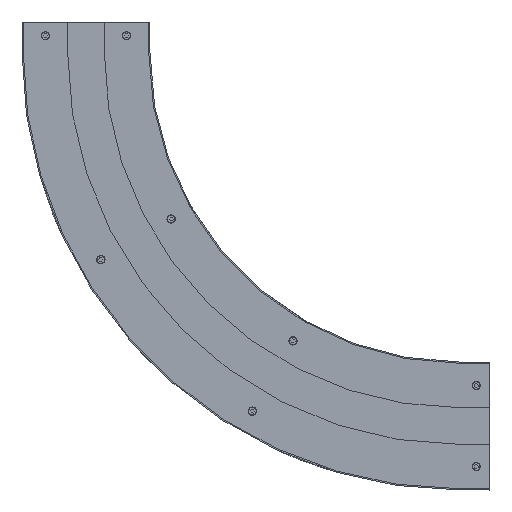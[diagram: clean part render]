
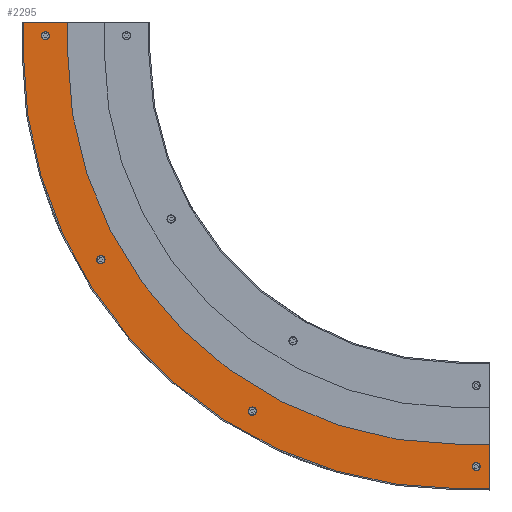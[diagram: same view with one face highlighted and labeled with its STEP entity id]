
A CAD part, front view. The second image highlights one B-rep face of the part: STEP entity #2295.
In plain terms, the highlighted planar face has unit normal (0, -1, 0) as drawn and (0, 1, 0) by its records, which use the part's own axes.
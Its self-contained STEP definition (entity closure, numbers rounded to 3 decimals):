
#11 = CARTESIAN_POINT ( 'NONE',  ( 637.5, 30., -719.5 ) ) ;
#50 = LINE ( 'NONE', #2740, #3525 ) ;
#308 = DIRECTION ( 'NONE',  ( -1., 0., 0. ) ) ;
#424 = VERTEX_POINT ( 'NONE', #7881 ) ;
#501 = EDGE_CURVE ( 'NONE', #10715, #6260, #9836, .T. ) ;
#686 = DIRECTION ( 'NONE',  ( 0., 1., 0. ) ) ;
#868 = DIRECTION ( 'NONE',  ( 0., 0., 1. ) ) ;
#952 = PLANE ( 'NONE',  #6909 ) ;
#964 = DIRECTION ( 'NONE',  ( 0., -1., 0. ) ) ;
#970 = ORIENTED_EDGE ( 'NONE', *, *, #6418, .T. ) ;
#980 = DIRECTION ( 'NONE',  ( 0., 1., 0. ) ) ;
#1016 = ORIENTED_EDGE ( 'NONE', *, *, #501, .T. ) ;
#1107 = DIRECTION ( 'NONE',  ( 0., 0., 1. ) ) ;
#1164 = VECTOR ( 'NONE', #1652, 1000. ) ;
#1198 = VERTEX_POINT ( 'NONE', #8071 ) ;
#1263 = CARTESIAN_POINT ( 'NONE',  ( -102.5, 30., 0. ) ) ;
#1369 = VERTEX_POINT ( 'NONE', #8216 ) ;
#1572 = ORIENTED_EDGE ( 'NONE', *, *, #10874, .F. ) ;
#1651 = DIRECTION ( 'NONE',  ( 0., 0., 1. ) ) ;
#1652 = DIRECTION ( 'NONE',  ( 0., 0., 1. ) ) ;
#1825 = ORIENTED_EDGE ( 'NONE', *, *, #6485, .F. ) ;
#1915 = ORIENTED_EDGE ( 'NONE', *, *, #7986, .F. ) ;
#2116 = EDGE_CURVE ( 'NONE', #5182, #9745, #7841, .T. ) ;
#2196 = EDGE_LOOP ( 'NONE', ( #3957, #3278 ) ) ;
#2295 = ADVANCED_FACE ( 'NONE', ( #8949, #9928, #5878, #9223, #3231 ), #952, .T. ) ;
#2374 = VERTEX_POINT ( 'NONE', #11 ) ;
#2448 = VERTEX_POINT ( 'NONE', #4414 ) ;
#2473 = CARTESIAN_POINT ( 'NONE',  ( 271.875, 30., -635.65 ) ) ;
#2612 = CARTESIAN_POINT ( 'NONE',  ( -102.5, 30., -50. ) ) ;
#2654 = AXIS2_PLACEMENT_3D ( 'NONE', #4436, #7163, #8959 ) ;
#2740 = CARTESIAN_POINT ( 'NONE',  ( 610., 30., -690. ) ) ;
#2807 = DIRECTION ( 'NONE',  ( 0., 0., -1. ) ) ;
#3185 = ORIENTED_EDGE ( 'NONE', *, *, #11101, .F. ) ;
#3231 = FACE_OUTER_BOUND ( 'NONE', #7381, .T. ) ;
#3278 = ORIENTED_EDGE ( 'NONE', *, *, #7920, .F. ) ;
#3525 = VECTOR ( 'NONE', #8986, 1000. ) ;
#3746 = VERTEX_POINT ( 'NONE', #11247 ) ;
#3957 = ORIENTED_EDGE ( 'NONE', *, *, #8137, .F. ) ;
#4338 = ORIENTED_EDGE ( 'NONE', *, *, #10939, .F. ) ;
#4403 = AXIS2_PLACEMENT_3D ( 'NONE', #5909, #9544, #8644 ) ;
#4414 = CARTESIAN_POINT ( 'NONE',  ( -30., 30., 0. ) ) ;
#4436 = CARTESIAN_POINT ( 'NONE',  ( 271.875, 30., -635.65 ) ) ;
#4447 = AXIS2_PLACEMENT_3D ( 'NONE', #5613, #10930, #8281 ) ;
#4535 = CARTESIAN_POINT ( 'NONE',  ( -30., 30., -50. ) ) ;
#4561 = ORIENTED_EDGE ( 'NONE', *, *, #7949, .F. ) ;
#4597 = VECTOR ( 'NONE', #9018, 1000. ) ;
#5111 = DIRECTION ( 'NONE',  ( 0., 0., 1. ) ) ;
#5182 = VERTEX_POINT ( 'NONE', #6674 ) ;
#5239 = ORIENTED_EDGE ( 'NONE', *, *, #2116, .T. ) ;
#5264 = DIRECTION ( 'NONE',  ( 0., 0., 1. ) ) ;
#5290 = CARTESIAN_POINT ( 'NONE',  ( -66.25, 30., -15.75 ) ) ;
#5363 = CARTESIAN_POINT ( 'NONE',  ( 610., 30., -762.5 ) ) ;
#5400 = AXIS2_PLACEMENT_3D ( 'NONE', #6194, #7199, #868 ) ;
#5403 = CARTESIAN_POINT ( 'NONE',  ( -102.5, 30., -50. ) ) ;
#5467 = AXIS2_PLACEMENT_3D ( 'NONE', #2473, #686, #5111 ) ;
#5558 = CIRCLE ( 'NONE', #9023, 6.75 ) ;
#5613 = CARTESIAN_POINT ( 'NONE',  ( -66.25, 30., -22.5 ) ) ;
#5875 = EDGE_CURVE ( 'NONE', #8624, #3746, #10662, .T. ) ;
#5878 = FACE_BOUND ( 'NONE', #10875, .T. ) ;
#5889 = CIRCLE ( 'NONE', #5467, 6.75 ) ;
#5909 = CARTESIAN_POINT ( 'NONE',  ( 610., 30., -50. ) ) ;
#5935 = AXIS2_PLACEMENT_3D ( 'NONE', #9433, #8825, #1651 ) ;
#6122 = CIRCLE ( 'NONE', #2654, 6.75 ) ;
#6124 = VERTEX_POINT ( 'NONE', #8362 ) ;
#6194 = CARTESIAN_POINT ( 'NONE',  ( -66.25, 30., -22.5 ) ) ;
#6217 = CARTESIAN_POINT ( 'NONE',  ( 660., 30., -762.5 ) ) ;
#6247 = DIRECTION ( 'NONE',  ( 0., 1., 0. ) ) ;
#6260 = VERTEX_POINT ( 'NONE', #8811 ) ;
#6299 = CARTESIAN_POINT ( 'NONE',  ( 24.35, 30., -388.125 ) ) ;
#6341 = DIRECTION ( 'NONE',  ( 0., 0., 1. ) ) ;
#6418 = EDGE_CURVE ( 'NONE', #1369, #5182, #50, .T. ) ;
#6485 = EDGE_CURVE ( 'NONE', #1198, #424, #5889, .T. ) ;
#6674 = CARTESIAN_POINT ( 'NONE',  ( 660., 30., -690. ) ) ;
#6909 = AXIS2_PLACEMENT_3D ( 'NONE', #5403, #7959, #5264 ) ;
#7064 = EDGE_LOOP ( 'NONE', ( #3185, #8424 ) ) ;
#7090 = DIRECTION ( 'NONE',  ( 1., 0., 0. ) ) ;
#7098 = CIRCLE ( 'NONE', #4447, 6.75 ) ;
#7109 = CIRCLE ( 'NONE', #5400, 6.75 ) ;
#7163 = DIRECTION ( 'NONE',  ( 0., 1., 0. ) ) ;
#7184 = CARTESIAN_POINT ( 'NONE',  ( 610., 30., -50. ) ) ;
#7199 = DIRECTION ( 'NONE',  ( 0., 1., 0. ) ) ;
#7219 = CARTESIAN_POINT ( 'NONE',  ( -66.25, 30., -29.25 ) ) ;
#7381 = EDGE_LOOP ( 'NONE', ( #11234, #4338, #9046, #970, #5239, #4561, #1572, #1016 ) ) ;
#7412 = CARTESIAN_POINT ( 'NONE',  ( 637.5, 30., -726.25 ) ) ;
#7797 = VECTOR ( 'NONE', #7090, 1000. ) ;
#7830 = CIRCLE ( 'NONE', #4403, 640. ) ;
#7832 = EDGE_CURVE ( 'NONE', #424, #1198, #6122, .T. ) ;
#7841 = LINE ( 'NONE', #9642, #11025 ) ;
#7843 = LINE ( 'NONE', #1263, #9363 ) ;
#7881 = CARTESIAN_POINT ( 'NONE',  ( 271.875, 30., -628.9 ) ) ;
#7920 = EDGE_CURVE ( 'NONE', #9721, #9128, #7109, .T. ) ;
#7949 = EDGE_CURVE ( 'NONE', #6124, #9745, #10995, .T. ) ;
#7959 = DIRECTION ( 'NONE',  ( 0., 1., 0. ) ) ;
#7986 = EDGE_CURVE ( 'NONE', #3746, #8624, #8633, .T. ) ;
#8071 = CARTESIAN_POINT ( 'NONE',  ( 271.875, 30., -642.4 ) ) ;
#8075 = CARTESIAN_POINT ( 'NONE',  ( 637.5, 30., -726.25 ) ) ;
#8137 = EDGE_CURVE ( 'NONE', #9128, #9721, #7098, .T. ) ;
#8216 = CARTESIAN_POINT ( 'NONE',  ( 610., 30., -690. ) ) ;
#8219 = LINE ( 'NONE', #4535, #4597 ) ;
#8281 = DIRECTION ( 'NONE',  ( 0., 0., 1. ) ) ;
#8362 = CARTESIAN_POINT ( 'NONE',  ( 610., 30., -762.5 ) ) ;
#8424 = ORIENTED_EDGE ( 'NONE', *, *, #8653, .F. ) ;
#8511 = CARTESIAN_POINT ( 'NONE',  ( -30., 30., -50. ) ) ;
#8589 = EDGE_LOOP ( 'NONE', ( #11444, #1825 ) ) ;
#8624 = VERTEX_POINT ( 'NONE', #11524 ) ;
#8633 = CIRCLE ( 'NONE', #10796, 6.75 ) ;
#8644 = DIRECTION ( 'NONE',  ( 0., 0., -1. ) ) ;
#8653 = EDGE_CURVE ( 'NONE', #10363, #2374, #9036, .T. ) ;
#8673 = DIRECTION ( 'NONE',  ( 0., 0., -1. ) ) ;
#8811 = CARTESIAN_POINT ( 'NONE',  ( -102.5, 30., 0. ) ) ;
#8825 = DIRECTION ( 'NONE',  ( 0., 1., 0. ) ) ;
#8949 = FACE_BOUND ( 'NONE', #2196, .T. ) ;
#8959 = DIRECTION ( 'NONE',  ( 0., 0., 1. ) ) ;
#8979 = DIRECTION ( 'NONE',  ( 0., 0., 1. ) ) ;
#8986 = DIRECTION ( 'NONE',  ( 1., 0., 0. ) ) ;
#9018 = DIRECTION ( 'NONE',  ( 0., 0., 1. ) ) ;
#9023 = AXIS2_PLACEMENT_3D ( 'NONE', #7412, #9123, #1107 ) ;
#9031 = CARTESIAN_POINT ( 'NONE',  ( 637.5, 30., -733. ) ) ;
#9036 = CIRCLE ( 'NONE', #9311, 6.75 ) ;
#9046 = ORIENTED_EDGE ( 'NONE', *, *, #10600, .T. ) ;
#9123 = DIRECTION ( 'NONE',  ( 0., 1., 0. ) ) ;
#9128 = VERTEX_POINT ( 'NONE', #5290 ) ;
#9168 = AXIS2_PLACEMENT_3D ( 'NONE', #7184, #964, #2807 ) ;
#9223 = FACE_BOUND ( 'NONE', #8589, .T. ) ;
#9311 = AXIS2_PLACEMENT_3D ( 'NONE', #8075, #6247, #8979 ) ;
#9363 = VECTOR ( 'NONE', #308, 1000. ) ;
#9433 = CARTESIAN_POINT ( 'NONE',  ( 24.35, 30., -388.125 ) ) ;
#9544 = DIRECTION ( 'NONE',  ( 0., -1., 0. ) ) ;
#9642 = CARTESIAN_POINT ( 'NONE',  ( 660., 30., -762.5 ) ) ;
#9721 = VERTEX_POINT ( 'NONE', #7219 ) ;
#9745 = VERTEX_POINT ( 'NONE', #6217 ) ;
#9836 = LINE ( 'NONE', #2612, #1164 ) ;
#9920 = EDGE_CURVE ( 'NONE', #2448, #6260, #7843, .T. ) ;
#9928 = FACE_BOUND ( 'NONE', #7064, .T. ) ;
#10033 = VERTEX_POINT ( 'NONE', #8511 ) ;
#10118 = ORIENTED_EDGE ( 'NONE', *, *, #5875, .F. ) ;
#10363 = VERTEX_POINT ( 'NONE', #9031 ) ;
#10600 = EDGE_CURVE ( 'NONE', #10033, #1369, #7830, .T. ) ;
#10662 = CIRCLE ( 'NONE', #5935, 6.75 ) ;
#10715 = VERTEX_POINT ( 'NONE', #11447 ) ;
#10796 = AXIS2_PLACEMENT_3D ( 'NONE', #6299, #980, #6341 ) ;
#10874 = EDGE_CURVE ( 'NONE', #10715, #6124, #11452, .T. ) ;
#10875 = EDGE_LOOP ( 'NONE', ( #1915, #10118 ) ) ;
#10930 = DIRECTION ( 'NONE',  ( 0., 1., 0. ) ) ;
#10939 = EDGE_CURVE ( 'NONE', #10033, #2448, #8219, .T. ) ;
#10995 = LINE ( 'NONE', #5363, #7797 ) ;
#11025 = VECTOR ( 'NONE', #8673, 1000. ) ;
#11101 = EDGE_CURVE ( 'NONE', #2374, #10363, #5558, .T. ) ;
#11234 = ORIENTED_EDGE ( 'NONE', *, *, #9920, .F. ) ;
#11247 = CARTESIAN_POINT ( 'NONE',  ( 24.35, 30., -381.375 ) ) ;
#11444 = ORIENTED_EDGE ( 'NONE', *, *, #7832, .F. ) ;
#11447 = CARTESIAN_POINT ( 'NONE',  ( -102.5, 30., -50. ) ) ;
#11452 = CIRCLE ( 'NONE', #9168, 712.5 ) ;
#11524 = CARTESIAN_POINT ( 'NONE',  ( 24.35, 30., -394.875 ) ) ;
